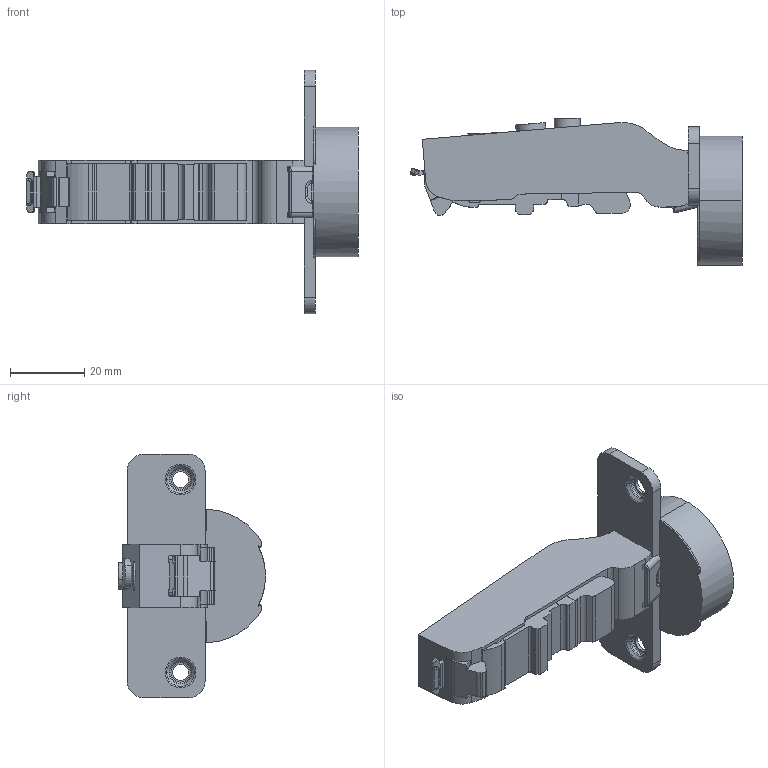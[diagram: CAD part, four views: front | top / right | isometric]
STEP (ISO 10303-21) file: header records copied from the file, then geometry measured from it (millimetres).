
FILE_DESCRIPTION (( 'STEP AP203' ), '1' );
FILE_NAME ('C81A877FAB DTC 3D CLOSE.STEP', '2024-07-16T08:34:20', ( '微软用户' ), ( '微软中国' ), 'SwSTEP 2.0', 'SolidWorks 2021', '' );
FILE_SCHEMA (( 'CONFIG_CONTROL_DESIGN' ));
Length unit declared in the file: millimetre
Products named in the file (1): C81A877FAB DTC 3D CLOSE
Bounding box: 89.46 x 39.64 x 65.6 mm (x, y, z)
Volume: 38913.5 mm3; surface area: 11381.8 mm2
Topology: 1 solids, 2 shells, 362 faces, 1047 edges, 687 vertices
Faces by surface type: plane 170, cylinder 125, torus 32, bspline 31, cone 4
Entity records: 13251 total; most frequent: CARTESIAN_POINT 3728, ORIENTED_EDGE 2094, DIRECTION 1876, EDGE_CURVE 1047, VERTEX_POINT 687, AXIS2_PLACEMENT_3D 639, VECTOR 598, LINE 598
